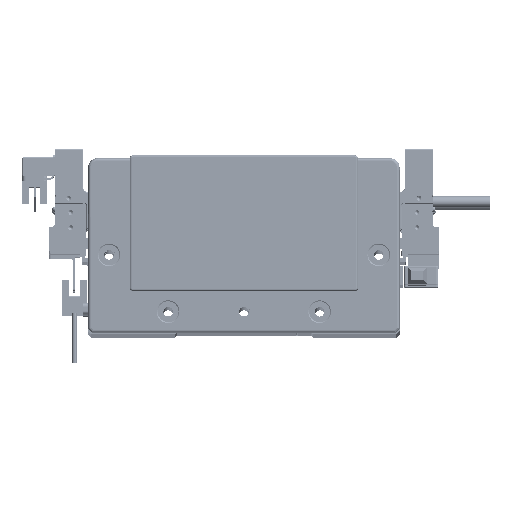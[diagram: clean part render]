
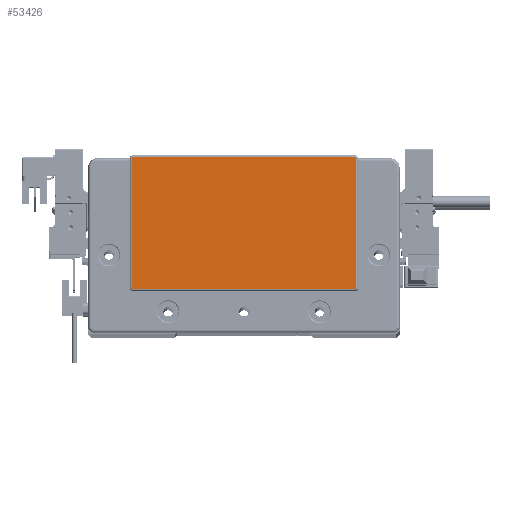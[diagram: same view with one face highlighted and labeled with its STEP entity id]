
A CAD part, top view. The second image highlights one B-rep face of the part: STEP entity #53426.
In plain terms, the highlighted planar face has unit normal (0, 0, 1) as drawn and (0, 0, -1) by its records, which use the part's own axes.
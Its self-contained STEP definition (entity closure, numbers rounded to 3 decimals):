
#2349 = DIRECTION ( 'NONE',  ( -1., 0., 0. ) ) ;
#3112 = DIRECTION ( 'NONE',  ( 0., 0., -1. ) ) ;
#3352 = DIRECTION ( 'NONE',  ( 0., 1., 0. ) ) ;
#4451 = EDGE_CURVE ( 'NONE', #92687, #7500, #50990, .T. ) ;
#7500 = VERTEX_POINT ( 'NONE', #17567 ) ;
#7504 = DIRECTION ( 'NONE',  ( -1., 0., 0. ) ) ;
#8587 = VERTEX_POINT ( 'NONE', #78065 ) ;
#9385 = CARTESIAN_POINT ( 'NONE',  ( -58.75, 45.8, -2. ) ) ;
#9851 = EDGE_CURVE ( 'NONE', #62074, #56225, #32672, .T. ) ;
#10070 = CARTESIAN_POINT ( 'NONE',  ( -58.75, 45.3, -2. ) ) ;
#10303 = CARTESIAN_POINT ( 'NONE',  ( -59.25, 45.3, -2. ) ) ;
#11283 = CIRCLE ( 'NONE', #66699, 0.5 ) ;
#14102 = EDGE_CURVE ( 'NONE', #56063, #62074, #11283, .T. ) ;
#15958 = EDGE_CURVE ( 'NONE', #8587, #92687, #49638, .T. ) ;
#17567 = CARTESIAN_POINT ( 'NONE',  ( 59.25, -23.3, -2. ) ) ;
#23778 = VECTOR ( 'NONE', #63532, 1000. ) ;
#24626 = LINE ( 'NONE', #40996, #54610 ) ;
#24761 = DIRECTION ( 'NONE',  ( 0., 0., -1. ) ) ;
#27693 = CARTESIAN_POINT ( 'NONE',  ( 59.25, -23.3, -2. ) ) ;
#27799 = CARTESIAN_POINT ( 'NONE',  ( -59.25, -23.3, -2. ) ) ;
#28086 = ORIENTED_EDGE ( 'NONE', *, *, #14102, .T. ) ;
#32184 = CARTESIAN_POINT ( 'NONE',  ( 58.75, 45.8, -2. ) ) ;
#32672 = LINE ( 'NONE', #10303, #67859 ) ;
#32719 = DIRECTION ( 'NONE',  ( -1., 0., 0. ) ) ;
#34685 = FACE_OUTER_BOUND ( 'NONE', #52428, .T. ) ;
#35851 = VERTEX_POINT ( 'NONE', #9385 ) ;
#39081 = ORIENTED_EDGE ( 'NONE', *, *, #15958, .T. ) ;
#39849 = ORIENTED_EDGE ( 'NONE', *, *, #46215, .T. ) ;
#40996 = CARTESIAN_POINT ( 'NONE',  ( -58.75, -23.8, -2. ) ) ;
#41128 = CARTESIAN_POINT ( 'NONE',  ( 0., 0., -2. ) ) ;
#45240 = EDGE_CURVE ( 'NONE', #35851, #8587, #53974, .T. ) ;
#46215 = EDGE_CURVE ( 'NONE', #56225, #35851, #74406, .T. ) ;
#46657 = ORIENTED_EDGE ( 'NONE', *, *, #4451, .T. ) ;
#49638 = CIRCLE ( 'NONE', #81275, 0.5 ) ;
#50990 = LINE ( 'NONE', #27693, #23778 ) ;
#51478 = CARTESIAN_POINT ( 'NONE',  ( 59.25, 45.3, -2. ) ) ;
#52428 = EDGE_LOOP ( 'NONE', ( #46657, #55144, #77216, #28086, #92886, #39849, #95857, #39081 ) ) ;
#52565 = EDGE_CURVE ( 'NONE', #92682, #56063, #24626, .T. ) ;
#53097 = DIRECTION ( 'NONE',  ( 0., 0., -1. ) ) ;
#53426 = ADVANCED_FACE ( 'NONE', ( #34685 ), #92667, .T. ) ;
#53974 = LINE ( 'NONE', #32184, #56678 ) ;
#54610 = VECTOR ( 'NONE', #93517, 1000. ) ;
#55144 = ORIENTED_EDGE ( 'NONE', *, *, #80943, .T. ) ;
#55612 = DIRECTION ( 'NONE',  ( -1., 0., 0. ) ) ;
#56063 = VERTEX_POINT ( 'NONE', #84272 ) ;
#56225 = VERTEX_POINT ( 'NONE', #89144 ) ;
#56678 = VECTOR ( 'NONE', #76790, 1000. ) ;
#61388 = DIRECTION ( 'NONE',  ( 0., 0., -1. ) ) ;
#62074 = VERTEX_POINT ( 'NONE', #27799 ) ;
#62839 = CARTESIAN_POINT ( 'NONE',  ( 58.75, 45.3, -2. ) ) ;
#63532 = DIRECTION ( 'NONE',  ( 0., -1., 0. ) ) ;
#66699 = AXIS2_PLACEMENT_3D ( 'NONE', #93302, #77461, #55612 ) ;
#67859 = VECTOR ( 'NONE', #3352, 1000. ) ;
#68330 = CIRCLE ( 'NONE', #77809, 0.5 ) ;
#74406 = CIRCLE ( 'NONE', #85417, 0.5 ) ;
#75422 = CARTESIAN_POINT ( 'NONE',  ( 58.75, -23.3, -2. ) ) ;
#76790 = DIRECTION ( 'NONE',  ( 1., 0., 0. ) ) ;
#77216 = ORIENTED_EDGE ( 'NONE', *, *, #52565, .T. ) ;
#77461 = DIRECTION ( 'NONE',  ( 0., 0., -1. ) ) ;
#77809 = AXIS2_PLACEMENT_3D ( 'NONE', #75422, #53097, #7504 ) ;
#78065 = CARTESIAN_POINT ( 'NONE',  ( 58.75, 45.8, -2. ) ) ;
#79452 = DIRECTION ( 'NONE',  ( -1., 0., 0. ) ) ;
#80943 = EDGE_CURVE ( 'NONE', #7500, #92682, #68330, .T. ) ;
#81275 = AXIS2_PLACEMENT_3D ( 'NONE', #62839, #61388, #2349 ) ;
#84272 = CARTESIAN_POINT ( 'NONE',  ( -58.75, -23.8, -2. ) ) ;
#85417 = AXIS2_PLACEMENT_3D ( 'NONE', #10070, #3112, #79452 ) ;
#88007 = AXIS2_PLACEMENT_3D ( 'NONE', #41128, #24761, #32719 ) ;
#89144 = CARTESIAN_POINT ( 'NONE',  ( -59.25, 45.3, -2. ) ) ;
#92667 = PLANE ( 'NONE',  #88007 ) ;
#92682 = VERTEX_POINT ( 'NONE', #97566 ) ;
#92687 = VERTEX_POINT ( 'NONE', #51478 ) ;
#92886 = ORIENTED_EDGE ( 'NONE', *, *, #9851, .T. ) ;
#93302 = CARTESIAN_POINT ( 'NONE',  ( -58.75, -23.3, -2. ) ) ;
#93517 = DIRECTION ( 'NONE',  ( -1., 0., 0. ) ) ;
#95857 = ORIENTED_EDGE ( 'NONE', *, *, #45240, .T. ) ;
#97566 = CARTESIAN_POINT ( 'NONE',  ( 58.75, -23.8, -2. ) ) ;
